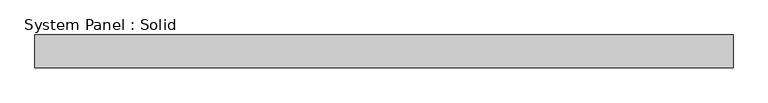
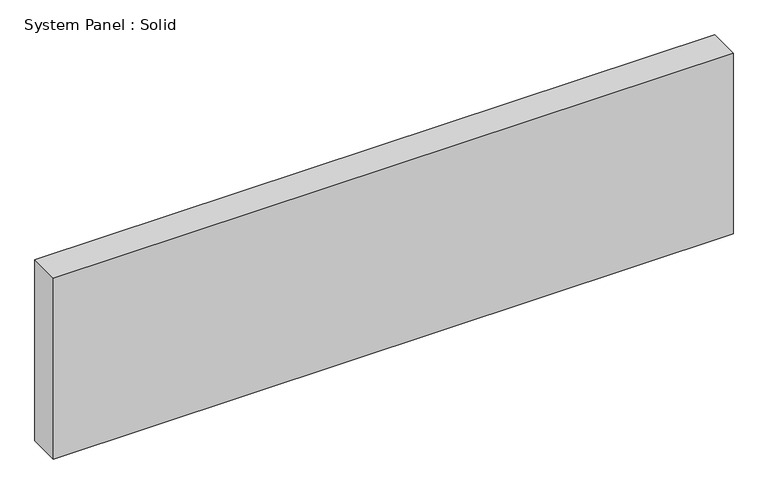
"""IFC4 building model written with IfcOpenShell, lengths in millimetres: plate geometry, System Panel : Solid."""

import ifcopenshell
import ifcopenshell.guid

model = None  # the IFC model being written
_history = None  # IfcOwnerHistory: only IFC2X3 demands one
_inside = {}  # id of a spatial element -> (the spatial element, [elements in it])
_under = {}  # id of a project, library or spatial element -> (it, [spatial elements below it])
_declared = {}  # id of a project -> (the project, [libraries it declares])
_typed = {}  # id of a type object -> (the type object, [elements of that type])
_made_of = {}  # id of a material, layer set ... -> (it, [elements and type objects made of it])


def new_model(schema):
    """Start an empty IFC model of exactly this schema.

    Asked for "IFC4X3", IfcOpenShell would pick the latest addendum, in which some entities
    have other attributes; the version numbers below select the first issue.
    IFC2X3 requires an IfcOwnerHistory on every rooted entity: one is made here for all.
    """
    global model, _history
    if schema == "IFC4X3":
        model = ifcopenshell.file(schema_version=(4, 3, 0, 0))
    else:
        model = ifcopenshell.file(schema=schema)
    _inside.clear()
    _under.clear()
    _declared.clear()
    _typed.clear()
    _made_of.clear()
    _history = None
    if model.schema == "IFC2X3":
        org = make("IfcOrganization", Name="unknown")
        user = make(
            "IfcPersonAndOrganization",
            ThePerson=make("IfcPerson", FamilyName="unknown"),
            TheOrganization=org,
        )
        app = make(
            "IfcApplication",
            ApplicationDeveloper=org,
            Version="unknown",
            ApplicationFullName="unknown",
            ApplicationIdentifier="unknown",
        )
        _history = make(
            "IfcOwnerHistory",
            OwningUser=user,
            OwningApplication=app,
            ChangeAction="ADDED",
            CreationDate=0,
        )
    return model


def make(cls, **values):
    """One entity of the class cls with the attributes given. An attribute that is None is left unset."""
    return model.create_entity(
        cls, **{name: value for name, value in values.items() if value is not None}
    )


def rooted(cls, **values):
    """An entity with a GlobalId (a new one), such as an element, a storey or a relation."""
    return make(cls, GlobalId=ifcopenshell.guid.new(), OwnerHistory=_history, **values)


def si_unit(unit_type, name, prefix=None):
    """IfcSIUnit, for example si_unit("LENGTHUNIT", "METRE", prefix="MILLI")."""
    return make("IfcSIUnit", UnitType=unit_type, Prefix=prefix, Name=name)


def assignment(units):
    """IfcUnitAssignment: the units of a project."""
    return None if units is None else make("IfcUnitAssignment", Units=units)


def point(xyz):
    """IfcCartesianPoint."""
    return None if xyz is None else make("IfcCartesianPoint", Coordinates=xyz)


def direction(xyz):
    """IfcDirection."""
    return None if xyz is None else make("IfcDirection", DirectionRatios=xyz)


def frame(location, z_axis=None, x_axis=None):
    """IfcAxis2Placement3D, a coordinate frame: its origin and axes. An axis left out is left unset."""
    return make(
        "IfcAxis2Placement3D",
        Location=point(location),
        Axis=direction(z_axis),
        RefDirection=direction(x_axis),
    )


def origin():
    """The frame at (0, 0, 0) with its axes left unset."""
    return frame((0.0, 0.0, 0.0))


def origin_with_axes():
    """The frame at (0, 0, 0) with the z axis (0, 0, 1) and the x axis (1, 0, 0) written out."""
    return frame((0.0, 0.0, 0.0), z_axis=(0.0, 0.0, 1.0), x_axis=(1.0, 0.0, 0.0))


def place(relative_to, where):
    """IfcLocalPlacement: puts the frame where relative to a parent placement (None: the world)."""
    return make(
        "IfcLocalPlacement", PlacementRelTo=relative_to, RelativePlacement=where
    )


def context(
    kind, dimensions, precision=None, world=None, true_north=None, identifier=None
):
    """IfcGeometricRepresentationContext, for example the 3D "Model" context."""
    return make(
        "IfcGeometricRepresentationContext",
        ContextIdentifier=identifier,
        ContextType=kind,
        CoordinateSpaceDimension=dimensions,
        Precision=precision,
        WorldCoordinateSystem=world,
        TrueNorth=true_north,
    )


def project(units=None, contexts=None):
    """IfcProject with its units and contexts."""
    return rooted(
        "IfcProject",
        Name="project",
        RepresentationContexts=contexts,
        UnitsInContext=assignment(units),
    )


def spatial(cls, under=None, at=None, **own):
    """A site, building, storey or space (cls), placed at a placement, below another one or the project."""
    s = rooted(cls, ObjectPlacement=at, **own)
    if under is not None:
        _under.setdefault(under.id(), (under, []))[1].append(s)
    return s


def polyline(points):
    """IfcPolyline through the points."""
    return make("IfcPolyline", Points=[point(p) for p in points])


def outline(outer, holes=None, kind="AREA"):
    """IfcArbitraryClosedProfileDef: a profile drawn as a closed curve; with holes, ...WithVoids."""
    if holes is None:
        return make("IfcArbitraryClosedProfileDef", ProfileType=kind, OuterCurve=outer)
    return make(
        "IfcArbitraryProfileDefWithVoids",
        ProfileType=kind,
        OuterCurve=outer,
        InnerCurves=holes,
    )


def extrude(swept, where, along, depth):
    """IfcExtrudedAreaSolid: the profile swept, set in the frame where, extruded along a direction by depth."""
    return make(
        "IfcExtrudedAreaSolid",
        SweptArea=swept,
        Position=where,
        ExtrudedDirection=direction(along),
        Depth=depth,
    )


def shape(context_of_items, identifier, shape_type, items):
    """IfcShapeRepresentation: the items that make up one representation, for example the "Body"."""
    return make(
        "IfcShapeRepresentation",
        ContextOfItems=context_of_items,
        RepresentationIdentifier=identifier,
        RepresentationType=shape_type,
        Items=items,
    )


def source(mapping_origin, context_of_items, identifier, shape_type, items):
    """IfcRepresentationMap: a shape defined once, which mapped items show again and again."""
    return make(
        "IfcRepresentationMap",
        MappingOrigin=mapping_origin,
        MappedRepresentation=shape(context_of_items, identifier, shape_type, items),
    )


def transform(
    local_origin,
    x_axis=None,
    y_axis=None,
    z_axis=None,
    scale=None,
    scale2=None,
    scale3=None,
    uniform=True,
):
    """IfcCartesianTransformationOperator3D, or its non-uniform kind. x_axis, y_axis, z_axis: its Axis1, 2, 3."""
    if uniform:
        return make(
            "IfcCartesianTransformationOperator3D",
            Axis1=direction(x_axis),
            Axis2=direction(y_axis),
            LocalOrigin=point(local_origin),
            Scale=scale,
            Axis3=direction(z_axis),
        )
    return make(
        "IfcCartesianTransformationOperator3DnonUniform",
        Axis1=direction(x_axis),
        Axis2=direction(y_axis),
        LocalOrigin=point(local_origin),
        Scale=scale,
        Axis3=direction(z_axis),
        Scale2=scale2,
        Scale3=scale3,
    )


def mapped(mapping_source, mapping_target):
    """IfcMappedItem: shows the shape of a source again, moved by a transform."""
    return make(
        "IfcMappedItem", MappingSource=mapping_source, MappingTarget=mapping_target
    )


def made_of(thing, what):
    """Note that an element or type object is made of a material, layer set ...; save() writes the relation."""
    if what is not None:
        _made_of.setdefault(what.id(), (what, []))[1].append(thing)
    return thing


def element(
    cls,
    number,
    at=None,
    inside=None,
    cuts=None,
    type_object=None,
    material=None,
    context=None,
    identifier="Body",
    shape_type=None,
    held_by="IfcProductDefinitionShape",
    body=None,
    shapes=None,
    **own,
):
    """One element of the class cls, such as IfcWall. Its Tag is "e" and its number.

    at: its placement. inside: the storey or other place that contains it. cuts: it is an
    opening in that element (IfcRelVoidsElement). A single representation is given by context,
    identifier, shape_type and body (its items); several are given by shapes. held_by: the class
    of the entity that holds the representations. save() writes the other relations.
    """
    e = rooted(cls, Tag="e%d" % number, ObjectPlacement=at, **own)
    if body is not None:
        shapes = [shape(context, identifier, shape_type, body)]
    if shapes is not None:
        e.Representation = make(held_by, Representations=shapes)
    if inside is not None:
        _inside.setdefault(inside.id(), (inside, []))[1].append(e)
    if cuts is not None:
        rooted(
            "IfcRelVoidsElement", RelatingBuildingElement=cuts, RelatedOpeningElement=e
        )
    if type_object is not None:
        _typed.setdefault(type_object.id(), (type_object, []))[1].append(e)
    return made_of(e, material)


def aggregate(whole, parts):
    """IfcRelAggregates: a whole, such as a stair, and the parts it consists of."""
    return rooted("IfcRelAggregates", RelatingObject=whole, RelatedObjects=parts)


def save(model, path):
    """Write the relations noted so far, then the file.

    IfcRelAggregates (storeys below a building ...), IfcRelContainedInSpatialStructure (elements
    in a storey), IfcRelDefinesByType, IfcRelAssociatesMaterial and IfcRelDeclares: one each for
    every whole, place, type object, material and project.
    """
    for whole, parts in _under.values():
        aggregate(whole, parts)
    for where, things in _inside.values():
        rooted(
            "IfcRelContainedInSpatialStructure",
            RelatedElements=things,
            RelatingStructure=where,
        )
    for kind, things in _typed.values():
        rooted("IfcRelDefinesByType", RelatedObjects=things, RelatingType=kind)
    for what, things in _made_of.values():
        rooted("IfcRelAssociatesMaterial", RelatedObjects=things, RelatingMaterial=what)
    for by, libraries in _declared.values():
        rooted("IfcRelDeclares", RelatingContext=by, RelatedDefinitions=libraries)
    model.write(path)


def system_panel_solid_65ce7ea8(model_context):
    return source(origin(), model_context, "Body", "SweptSolid", [
        extrude(outline(polyline([(674.4738159, -19.05), (-674.4738159, -19.05), (-674.4738159, 44.45), (674.4738159, 44.45), (674.4738159, -19.05)])), origin_with_axes(), (0.0, 0.0, 1.0), 379.1388226),
    ])


if __name__ == "__main__":
    model = new_model("IFC4")
    model_context = context("Model", 3, world=origin())
    ifc_project = project(units=[si_unit("LENGTHUNIT", "METRE", prefix="MILLI")], contexts=[model_context])
    site = spatial("IfcSite", under=ifc_project)
    building = spatial("IfcBuilding", under=site)
    placement = place(None, origin())
    system_panel_solid_shape = system_panel_solid_65ce7ea8(model_context)
    element("IfcPlate", 1, ObjectType="System Panel : Solid", at=placement, inside=building, context=model_context, shape_type="MappedRepresentation", body=[
        mapped(system_panel_solid_shape, transform((0.0, 0.0, 0.0), x_axis=(1.0, 0.0, 0.0), y_axis=(0.0, 1.0, 0.0), z_axis=(0.0, 0.0, 1.0))),
    ])
    save(model, "model.ifc")
